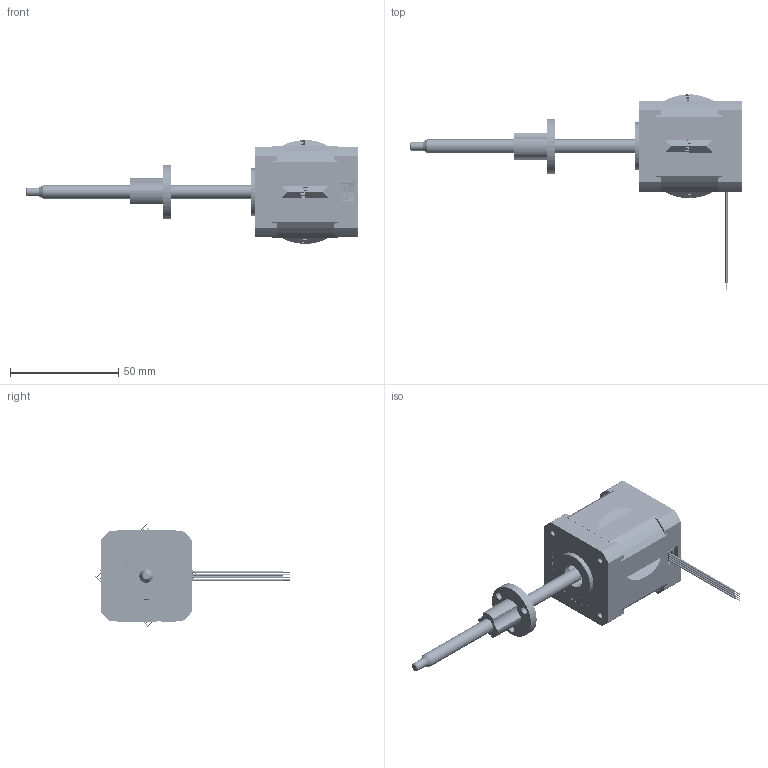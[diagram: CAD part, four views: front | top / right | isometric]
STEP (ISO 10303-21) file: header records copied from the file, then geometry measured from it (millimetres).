
FILE_DESCRIPTION((''),'2;1');
FILE_NAME('42EC4X-X-XXX-XXX_ASM_ASM','2023-06-30T',('lingling.gao'),(''),'CREO PARAMETRIC BY PTC INC, 2017300','CREO PARAMETRIC BY PTC INC, 2017300','');
FILE_SCHEMA(('CONFIG_CONTROL_DESIGN'));
Products named in the file (104): MSBR-102; MSBR-101; MSBR-100; MSBR-99; MSBR-98; MSBR-97; MSBR-96; MSBR-95; MSBR-94; MSBR-93; MSBR-92; MSBR-91; MSBR-90; MSBR-89; MSBR-88; MSBR-87; MSBR-86; MSBR-85; MSBR-84; MSBR-83; MSBR-82; MSBR-81; MSBR-80; MSBR-79; MSBR-78; MSBR-77; MSBR-76; MSBR-75; MSBR-74; MSBR-73; MSBR-72; MSBR-71; MSBR-70; MSBR-69; MSBR-68; MSBR-67; MSBR-66; MSBR-65; MSBR-64; MSBR-63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
Assembly tree (103 placements, depth 2):
  42EC4X-X-XXX-XXX_ASM_ASM
    MSBR-102
    MSBR-101
    MSBR-100
    MSBR-99
    MSBR-98
    MSBR-97
    MSBR-96
    MSBR-95
    MSBR-94
    MSBR-93
    MSBR-92
    MSBR-91
    MSBR-90
    MSBR-89
    MSBR-88
    MSBR-87
    MSBR-86
    MSBR-85
    MSBR-84
    MSBR-83
    MSBR-82
    MSBR-81
    MSBR-80
    MSBR-79
    MSBR-78
    MSBR-77
    MSBR-76
    MSBR-75
    MSBR-74
    MSBR-73
    MSBR-72
    MSBR-71
    MSBR-70
    MSBR-69
    MSBR-68
    MSBR-67
    MSBR-66
    MSBR-65
    MSBR-64
    MSBR-63
    MSBR-62
    MSBR-61
    MSBR-60
    MSBR-59
    MSBR-58
    MSBR-57
    MSBR-56
    MSBR-55
    MSBR-54
    MSBR-53
    MSBR-52
    MSBR-51
    MSBR-50
    MSBR-49
    MSBR-48
    MSBR-47
    MSBR-46
    MSBR-45
    MSBR-44
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Bounding box: 153.6 x 90.39 x 48.08 mm (x, y, z)
Volume: 27765.5 mm3; surface area: 359703.3 mm2
Topology: 102 solids, 129 shells, 4435 faces, 13134 edges, 8970 vertices
Faces by surface type: cylinder 2029, plane 1551, extrusion 705, bspline 102, torus 26, cone 14, sphere 8
Entity records: 221246 total; most frequent: CARTESIAN_POINT 96773, ORIENTED_EDGE 25928, DIRECTION 24555, EDGE_CURVE 13134, VERTEX_POINT 8970, AXIS2_PLACEMENT_3D 8638, VECTOR 7279, LINE 6574
